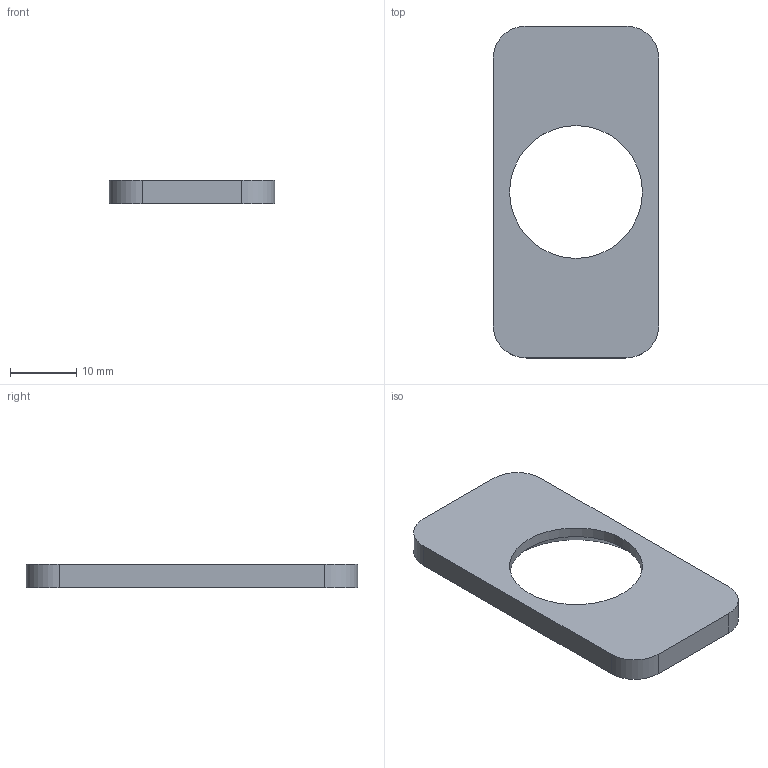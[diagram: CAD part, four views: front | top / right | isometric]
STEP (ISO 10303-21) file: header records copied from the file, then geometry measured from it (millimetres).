
FILE_DESCRIPTION(/* description */ (''),/* implementation_level */ '2;1');
FILE_NAME(/* name */ 'C:\Users\diederichbenedict\Dropbox\Dokumente\Promotion\PROJECTS\openUC2-CAD\INVENTOR\20_Cube_Insert_Sample_clamp.stp',/* time_stamp */ '2023-09-08T14:07:10+02:00',/* author */ ('diederichbenedict'),/* organization */ (''),/* preprocessor_version */ 'ST-DEVELOPER v18.1',/* originating_system */ 'Autodesk Inventor 2022',/* authorisation */ '');
FILE_SCHEMA (('AUTOMOTIVE_DESIGN { 1 0 10303 214 3 1 1 }'));
Length unit declared in the file: millimetre
Products named in the file (1): 20_Cube_Insert_Sample_clamp
Bounding box: 25 x 50 x 3.6 mm (x, y, z)
Volume: 2848.5 mm3; surface area: 2648.3 mm2
Topology: 1 solids, 1 shells, 16 faces, 35 edges, 23 vertices
Faces by surface type: plane 8, cylinder 7, cone 1
Full cylindrical faces by diameter (mm): 8.1 x2, 20 x1
Entity records: 491 total; most frequent: DIRECTION 84, CARTESIAN_POINT 75, ORIENTED_EDGE 70, EDGE_CURVE 35, AXIS2_PLACEMENT_3D 32, VERTEX_POINT 23, EDGE_LOOP 20, LINE 20
